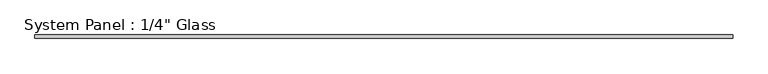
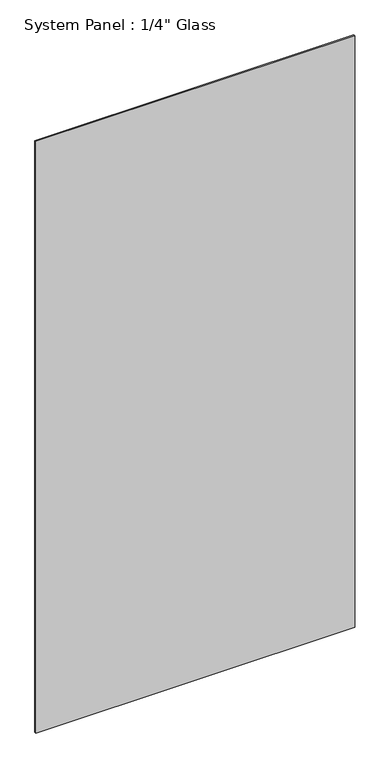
"""IFC4 building model written with IfcOpenShell, lengths in millimetres: plate geometry."""

import ifcopenshell
import ifcopenshell.guid

model = None  # the IFC model being written
_history = None  # IfcOwnerHistory: only IFC2X3 demands one
_inside = {}  # id of a spatial element -> (the spatial element, [elements in it])
_under = {}  # id of a project, library or spatial element -> (it, [spatial elements below it])
_declared = {}  # id of a project -> (the project, [libraries it declares])
_typed = {}  # id of a type object -> (the type object, [elements of that type])
_made_of = {}  # id of a material, layer set ... -> (it, [elements and type objects made of it])


def new_model(schema):
    """Start an empty IFC model of exactly this schema.

    Asked for "IFC4X3", IfcOpenShell would pick the latest addendum, in which some entities
    have other attributes; the version numbers below select the first issue.
    IFC2X3 requires an IfcOwnerHistory on every rooted entity: one is made here for all.
    """
    global model, _history
    if schema == "IFC4X3":
        model = ifcopenshell.file(schema_version=(4, 3, 0, 0))
    else:
        model = ifcopenshell.file(schema=schema)
    _inside.clear()
    _under.clear()
    _declared.clear()
    _typed.clear()
    _made_of.clear()
    _history = None
    if model.schema == "IFC2X3":
        org = make("IfcOrganization", Name="unknown")
        user = make(
            "IfcPersonAndOrganization",
            ThePerson=make("IfcPerson", FamilyName="unknown"),
            TheOrganization=org,
        )
        app = make(
            "IfcApplication",
            ApplicationDeveloper=org,
            Version="unknown",
            ApplicationFullName="unknown",
            ApplicationIdentifier="unknown",
        )
        _history = make(
            "IfcOwnerHistory",
            OwningUser=user,
            OwningApplication=app,
            ChangeAction="ADDED",
            CreationDate=0,
        )
    return model


def make(cls, **values):
    """One entity of the class cls with the attributes given. An attribute that is None is left unset."""
    return model.create_entity(
        cls, **{name: value for name, value in values.items() if value is not None}
    )


def rooted(cls, **values):
    """An entity with a GlobalId (a new one), such as an element, a storey or a relation."""
    return make(cls, GlobalId=ifcopenshell.guid.new(), OwnerHistory=_history, **values)


def si_unit(unit_type, name, prefix=None):
    """IfcSIUnit, for example si_unit("LENGTHUNIT", "METRE", prefix="MILLI")."""
    return make("IfcSIUnit", UnitType=unit_type, Prefix=prefix, Name=name)


def assignment(units):
    """IfcUnitAssignment: the units of a project."""
    return None if units is None else make("IfcUnitAssignment", Units=units)


def point(xyz):
    """IfcCartesianPoint."""
    return None if xyz is None else make("IfcCartesianPoint", Coordinates=xyz)


def direction(xyz):
    """IfcDirection."""
    return None if xyz is None else make("IfcDirection", DirectionRatios=xyz)


def frame(location, z_axis=None, x_axis=None):
    """IfcAxis2Placement3D, a coordinate frame: its origin and axes. An axis left out is left unset."""
    return make(
        "IfcAxis2Placement3D",
        Location=point(location),
        Axis=direction(z_axis),
        RefDirection=direction(x_axis),
    )


def origin():
    """The frame at (0, 0, 0) with its axes left unset."""
    return frame((0.0, 0.0, 0.0))


def origin_with_axes():
    """The frame at (0, 0, 0) with the z axis (0, 0, 1) and the x axis (1, 0, 0) written out."""
    return frame((0.0, 0.0, 0.0), z_axis=(0.0, 0.0, 1.0), x_axis=(1.0, 0.0, 0.0))


def place(relative_to, where):
    """IfcLocalPlacement: puts the frame where relative to a parent placement (None: the world)."""
    return make(
        "IfcLocalPlacement", PlacementRelTo=relative_to, RelativePlacement=where
    )


def context(
    kind, dimensions, precision=None, world=None, true_north=None, identifier=None
):
    """IfcGeometricRepresentationContext, for example the 3D "Model" context."""
    return make(
        "IfcGeometricRepresentationContext",
        ContextIdentifier=identifier,
        ContextType=kind,
        CoordinateSpaceDimension=dimensions,
        Precision=precision,
        WorldCoordinateSystem=world,
        TrueNorth=true_north,
    )


def project(units=None, contexts=None):
    """IfcProject with its units and contexts."""
    return rooted(
        "IfcProject",
        Name="project",
        RepresentationContexts=contexts,
        UnitsInContext=assignment(units),
    )


def spatial(cls, under=None, at=None, **own):
    """A site, building, storey or space (cls), placed at a placement, below another one or the project."""
    s = rooted(cls, ObjectPlacement=at, **own)
    if under is not None:
        _under.setdefault(under.id(), (under, []))[1].append(s)
    return s


def polyline(points):
    """IfcPolyline through the points."""
    return make("IfcPolyline", Points=[point(p) for p in points])


def outline(outer, holes=None, kind="AREA"):
    """IfcArbitraryClosedProfileDef: a profile drawn as a closed curve; with holes, ...WithVoids."""
    if holes is None:
        return make("IfcArbitraryClosedProfileDef", ProfileType=kind, OuterCurve=outer)
    return make(
        "IfcArbitraryProfileDefWithVoids",
        ProfileType=kind,
        OuterCurve=outer,
        InnerCurves=holes,
    )


def extrude(swept, where, along, depth):
    """IfcExtrudedAreaSolid: the profile swept, set in the frame where, extruded along a direction by depth."""
    return make(
        "IfcExtrudedAreaSolid",
        SweptArea=swept,
        Position=where,
        ExtrudedDirection=direction(along),
        Depth=depth,
    )


def shape(context_of_items, identifier, shape_type, items):
    """IfcShapeRepresentation: the items that make up one representation, for example the "Body"."""
    return make(
        "IfcShapeRepresentation",
        ContextOfItems=context_of_items,
        RepresentationIdentifier=identifier,
        RepresentationType=shape_type,
        Items=items,
    )


def source(mapping_origin, context_of_items, identifier, shape_type, items):
    """IfcRepresentationMap: a shape defined once, which mapped items show again and again."""
    return make(
        "IfcRepresentationMap",
        MappingOrigin=mapping_origin,
        MappedRepresentation=shape(context_of_items, identifier, shape_type, items),
    )


def transform(
    local_origin,
    x_axis=None,
    y_axis=None,
    z_axis=None,
    scale=None,
    scale2=None,
    scale3=None,
    uniform=True,
):
    """IfcCartesianTransformationOperator3D, or its non-uniform kind. x_axis, y_axis, z_axis: its Axis1, 2, 3."""
    if uniform:
        return make(
            "IfcCartesianTransformationOperator3D",
            Axis1=direction(x_axis),
            Axis2=direction(y_axis),
            LocalOrigin=point(local_origin),
            Scale=scale,
            Axis3=direction(z_axis),
        )
    return make(
        "IfcCartesianTransformationOperator3DnonUniform",
        Axis1=direction(x_axis),
        Axis2=direction(y_axis),
        LocalOrigin=point(local_origin),
        Scale=scale,
        Axis3=direction(z_axis),
        Scale2=scale2,
        Scale3=scale3,
    )


def mapped(mapping_source, mapping_target):
    """IfcMappedItem: shows the shape of a source again, moved by a transform."""
    return make(
        "IfcMappedItem", MappingSource=mapping_source, MappingTarget=mapping_target
    )


def made_of(thing, what):
    """Note that an element or type object is made of a material, layer set ...; save() writes the relation."""
    if what is not None:
        _made_of.setdefault(what.id(), (what, []))[1].append(thing)
    return thing


def element(
    cls,
    number,
    at=None,
    inside=None,
    cuts=None,
    type_object=None,
    material=None,
    context=None,
    identifier="Body",
    shape_type=None,
    held_by="IfcProductDefinitionShape",
    body=None,
    shapes=None,
    **own,
):
    """One element of the class cls, such as IfcWall. Its Tag is "e" and its number.

    at: its placement. inside: the storey or other place that contains it. cuts: it is an
    opening in that element (IfcRelVoidsElement). A single representation is given by context,
    identifier, shape_type and body (its items); several are given by shapes. held_by: the class
    of the entity that holds the representations. save() writes the other relations.
    """
    e = rooted(cls, Tag="e%d" % number, ObjectPlacement=at, **own)
    if body is not None:
        shapes = [shape(context, identifier, shape_type, body)]
    if shapes is not None:
        e.Representation = make(held_by, Representations=shapes)
    if inside is not None:
        _inside.setdefault(inside.id(), (inside, []))[1].append(e)
    if cuts is not None:
        rooted(
            "IfcRelVoidsElement", RelatingBuildingElement=cuts, RelatedOpeningElement=e
        )
    if type_object is not None:
        _typed.setdefault(type_object.id(), (type_object, []))[1].append(e)
    return made_of(e, material)


def aggregate(whole, parts):
    """IfcRelAggregates: a whole, such as a stair, and the parts it consists of."""
    return rooted("IfcRelAggregates", RelatingObject=whole, RelatedObjects=parts)


def save(model, path):
    """Write the relations noted so far, then the file.

    IfcRelAggregates (storeys below a building ...), IfcRelContainedInSpatialStructure (elements
    in a storey), IfcRelDefinesByType, IfcRelAssociatesMaterial and IfcRelDeclares: one each for
    every whole, place, type object, material and project.
    """
    for whole, parts in _under.values():
        aggregate(whole, parts)
    for where, things in _inside.values():
        rooted(
            "IfcRelContainedInSpatialStructure",
            RelatedElements=things,
            RelatingStructure=where,
        )
    for kind, things in _typed.values():
        rooted("IfcRelDefinesByType", RelatedObjects=things, RelatingType=kind)
    for what, things in _made_of.values():
        rooted("IfcRelAssociatesMaterial", RelatedObjects=things, RelatingMaterial=what)
    for by, libraries in _declared.values():
        rooted("IfcRelDeclares", RelatingContext=by, RelatedDefinitions=libraries)
    model.write(path)


def plate_c15461e5(model_context):
    return source(origin(), model_context, "Body", "SweptSolid", [
        extrude(outline(polyline([(634.4978608, -3.175), (-634.4978608, -3.175), (-634.4978608, 3.175), (634.4978608, 3.175), (634.4978608, -3.175)])), origin_with_axes(), (0.0, 0.0, 1.0), 2489.2),
    ])


if __name__ == "__main__":
    model = new_model("IFC4")
    model_context = context("Model", 3, world=origin())
    ifc_project = project(units=[si_unit("LENGTHUNIT", "METRE", prefix="MILLI")], contexts=[model_context])
    site = spatial("IfcSite", under=ifc_project)
    building = spatial("IfcBuilding", under=site)
    placement = place(None, origin())
    plate_shape = plate_c15461e5(model_context)
    element("IfcPlate", 1, ObjectType="System Panel : 1/4\" Glass", at=placement, inside=building, context=model_context, shape_type="MappedRepresentation", body=[
        mapped(plate_shape, transform((0.0, 0.0, 0.0), x_axis=(1.0, 0.0, 0.0), y_axis=(0.0, 1.0, 0.0), z_axis=(0.0, 0.0, 1.0))),
    ])
    save(model, "model.ifc")
